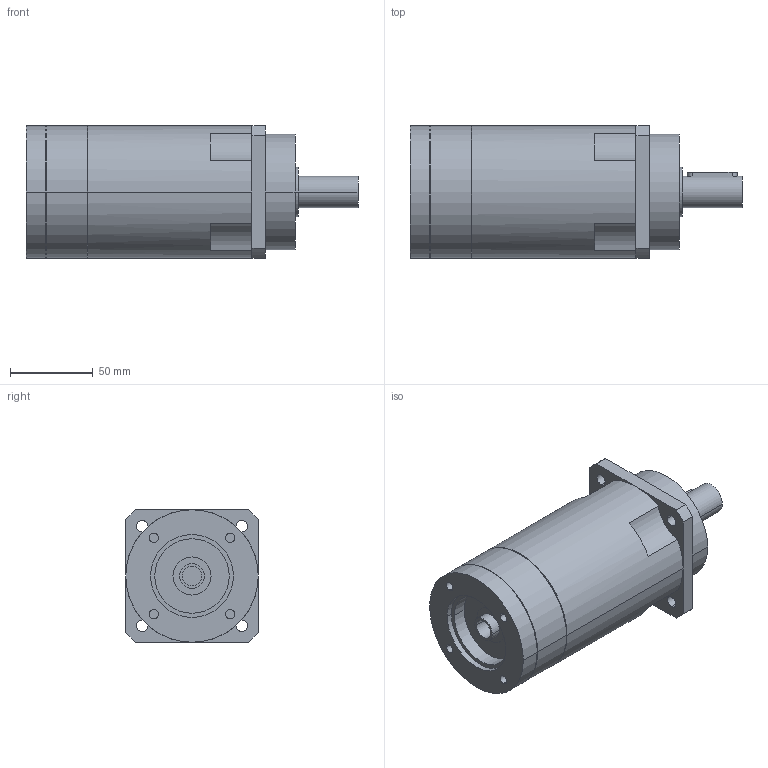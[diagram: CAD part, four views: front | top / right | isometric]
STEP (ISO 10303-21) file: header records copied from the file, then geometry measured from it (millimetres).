
FILE_DESCRIPTION(('CoCreate Modeling STEP Export'),'2;1');
FILE_NAME('GPR100_ig-48-64-80-100-120-144-180-216_19_B5_12_P10.stp','2014-08-26T11:53:58',(''),(''),'CoCreate Modeling STEP processor for AP214 (Solid Model)','CoCreate Modeling 16.00C 25-Feb-2009 (C) Parametric Technology GmbH','');
FILE_SCHEMA(('AUTOMOTIVE_DESIGN { 1 0 10303 214 1 1 1 1 }'));
Length unit declared in the file: millimetre
Products named in the file (2): GPR100_ig-48-64-80-100-120-144-180-216_19_B5_12_P10
Assembly tree (1 placements, depth 2):
  GPR100_ig-48-64-80-100-120-144-180-216_19_B5_12_P10
    GPR100_ig-48-64-80-100-120-144-180-216_19_B5_12_P10
Bounding box: 200.4 x 80 x 80 mm (x, y, z)
Volume: 784045.6 mm3; surface area: 61598.2 mm2
Topology: 1 solids, 1 shells, 99 faces, 256 edges, 176 vertices
Faces by surface type: cylinder 58, plane 35, cone 6
Entity records: 2674 total; most frequent: ORIENTED_EDGE 508, CARTESIAN_POINT 478, DIRECTION 386, EDGE_CURVE 254, VERTEX_POINT 176, AXIS2_PLACEMENT_3D 148, EDGE_LOOP 126, FACE_OUTER_BOUND 99
